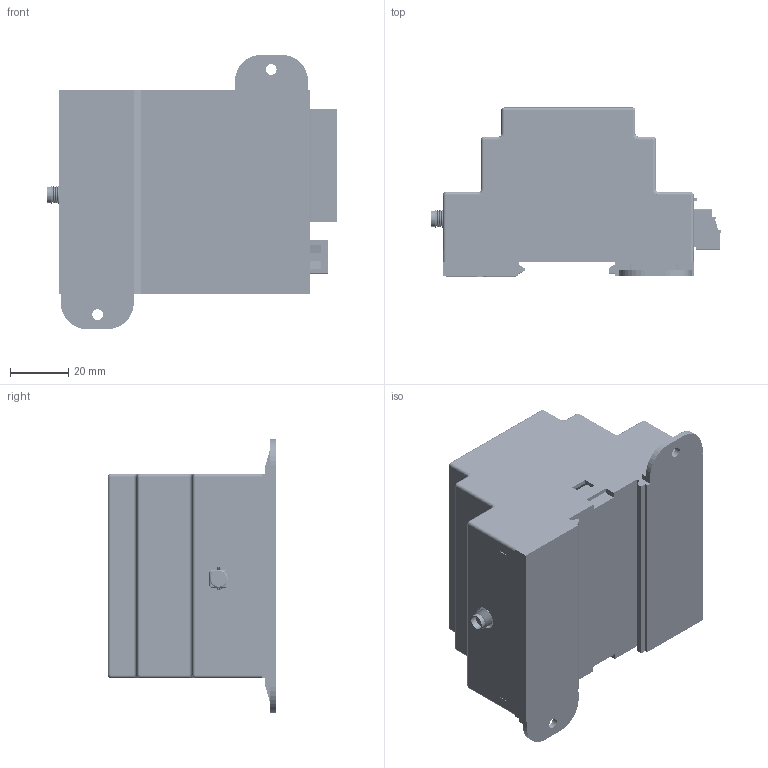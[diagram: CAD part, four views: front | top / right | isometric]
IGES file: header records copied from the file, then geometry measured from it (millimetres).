
Start section: SolidWorks IGES file using analytic representation for surfaces
Global section: file name: C:\Users\cara\Desktop\Engineering inactive\Tim\Dvit\CARA'S FILES\DVIT 07MAR2014.IGS; native system: SolidWorks 2014; preprocessor: SolidWorks 2014; author: cara; date: 140307.144306; units: millimetre
Bounding box: 99.72 x 57.8 x 94 mm (x, y, z)
Surface area: 109299.3 mm2 (no closed solid volume)
Topology: 0 solids, 0 shells, 3847 faces, 32870 edges, 32802 vertices
Faces by surface type: bspline 2773, revolution 1074
